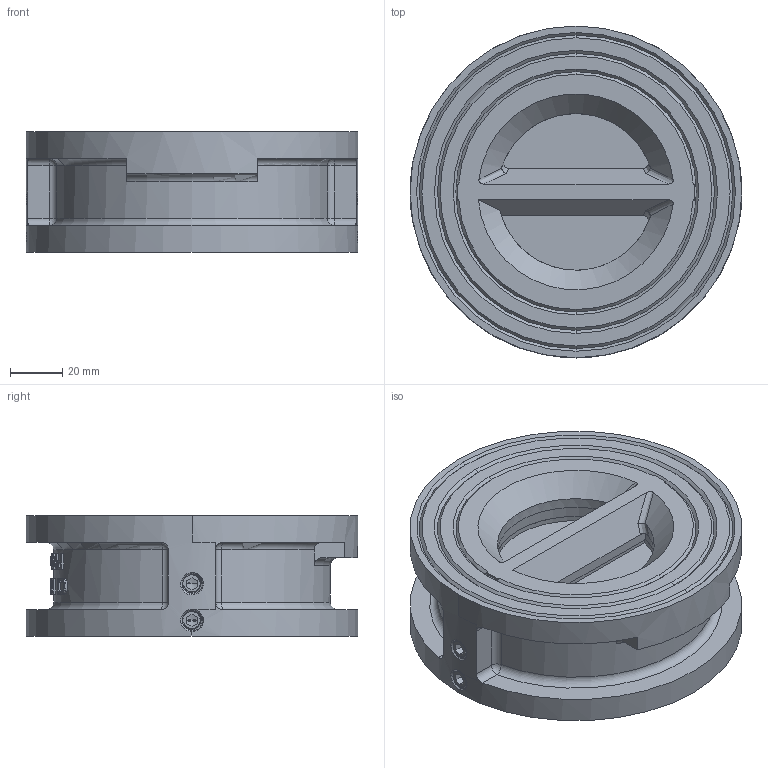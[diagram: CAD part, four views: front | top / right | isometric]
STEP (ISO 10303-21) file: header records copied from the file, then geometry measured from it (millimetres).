
FILE_DESCRIPTION((''),'2;1');
FILE_NAME('00-25_ASM','2014-07-23T',('Administrator'),(''),'PRO/ENGINEER BY PARAMETRIC TECHNOLOGY CORPORATION, 2010370','PRO/ENGINEER BY PARAMETRIC TECHNOLOGY CORPORATION, 2010370','');
FILE_SCHEMA(('CONFIG_CONTROL_DESIGN'));
Length unit declared in the file: millimetre
Products named in the file (9): 25-BODY_; 25-DISC_; 25_; 2-3_; M8-1_; HUANG-25_; F4-2-3-H_; F4-2-3-B_; 00-25_ASM
Assembly tree (20 placements, depth 2):
  00-25_ASM
    25-BODY_
    25-DISC_  x2
    25_  x2
    2-3_  x2
    M8-1_  x4
    HUANG-25_  x2
    F4-2-3-H_  x2
    F4-2-3-B_  x5
Bounding box: 127 x 127 x 46 mm (x, y, z)
Volume: 326735.7 mm3; surface area: 86067.8 mm2
Topology: 20 solids, 20 shells, 903 faces, 2386 edges, 1551 vertices
Faces by surface type: plane 572, cylinder 164, bspline 87, cone 50, torus 22, sphere 8
Entity records: 31633 total; most frequent: CARTESIAN_POINT 15736, ORIENTED_EDGE 3658, DIRECTION 2647, EDGE_CURVE 1829, VERTEX_POINT 1203, AXIS2_PLACEMENT_3D 927, VECTOR 793, LINE 793
